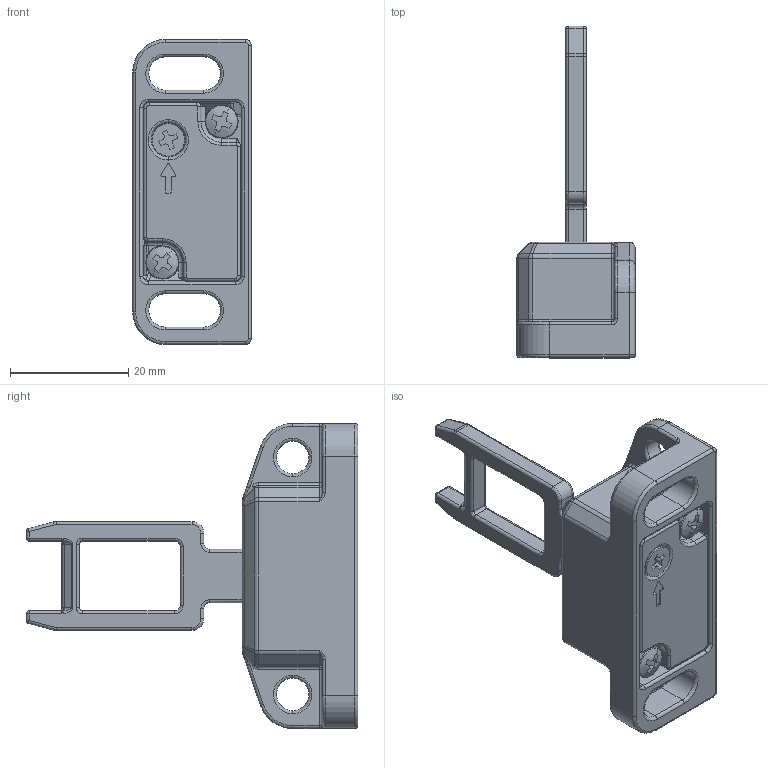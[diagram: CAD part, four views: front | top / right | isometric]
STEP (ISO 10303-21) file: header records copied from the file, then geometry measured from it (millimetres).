
FILE_DESCRIPTION (( 'STEP AP214' ), '1' );
FILE_NAME ('ACIS-...HL.STEP', '2015-10-27T19:08:56', ( '' ), ( '' ), 'SwSTEP 2.0', 'SolidWorks 2015', '' );
FILE_SCHEMA (( 'AUTOMOTIVE_DESIGN' ));
Length unit declared in the file: millimetre
Products named in the file (1): ACIS-...HL
Bounding box: 20 x 56 x 51.5 mm (x, y, z)
Surface area: 7039.4 mm2 (no closed solid volume)
Topology: 0 solids, 11 shells, 448 faces, 1126 edges, 678 vertices
Faces by surface type: cylinder 196, bspline 135, plane 115, cone 2
Entity records: 16579 total; most frequent: CARTESIAN_POINT 6627, ORIENTED_EDGE 2114, DIRECTION 1984, EDGE_CURVE 1113, AXIS2_PLACEMENT_3D 737, VERTEX_POINT 678, VECTOR 510, LINE 510
